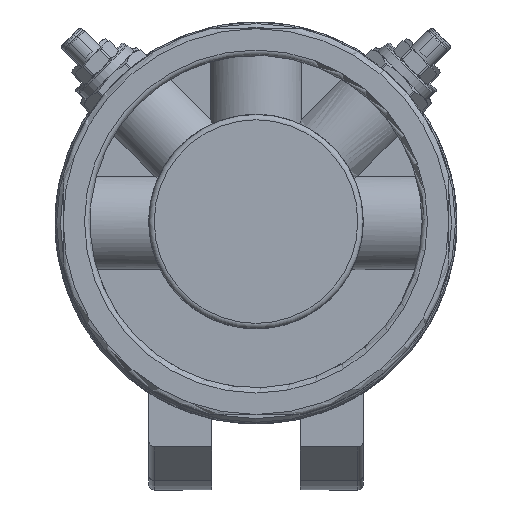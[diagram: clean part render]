
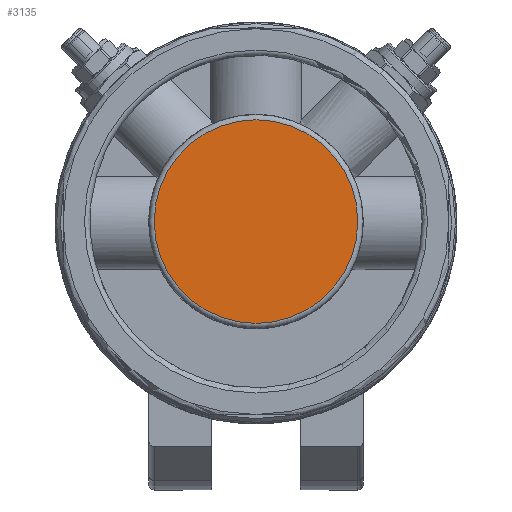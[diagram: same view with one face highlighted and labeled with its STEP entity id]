
A CAD part, top view. The second image highlights one B-rep face of the part: STEP entity #3135.
In plain terms, the highlighted planar face has unit normal (0, 0, 1).
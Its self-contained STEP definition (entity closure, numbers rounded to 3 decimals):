
#2824=CARTESIAN_POINT('',(19.,0.,170.5));
#2825=VERTEX_POINT('',#2824);
#2826=CARTESIAN_POINT('',(0.,0.,170.5));
#2827=DIRECTION('',(0.0,0.0,-1.0));
#2828=DIRECTION('',(-1.0,0.0,0.0));
#2829=AXIS2_PLACEMENT_3D('',#2826,#2827,#2828);
#2830=CIRCLE('',#2829,19.0);
#2831=EDGE_CURVE('',#2825,#2825,#2830,.T.);
#3127=CARTESIAN_POINT('',(0.,0.,170.5));
#3128=DIRECTION('',(0.0,0.0,-1.0));
#3129=DIRECTION('',(-1.0,0.0,0.0));
#3130=AXIS2_PLACEMENT_3D('',#3127,#3128,#3129);
#3131=PLANE('',#3130);
#3132=ORIENTED_EDGE('',*,*,#2831,.F.);
#3133=EDGE_LOOP('',(#3132));
#3134=FACE_OUTER_BOUND('',#3133,.T.);
#3135=ADVANCED_FACE('',(#3134),#3131,.F.);
